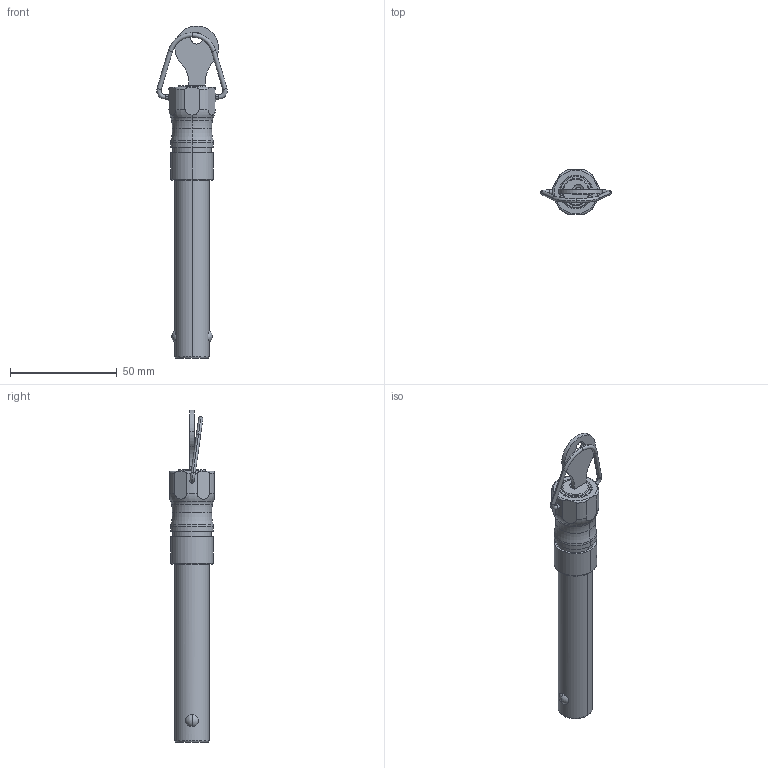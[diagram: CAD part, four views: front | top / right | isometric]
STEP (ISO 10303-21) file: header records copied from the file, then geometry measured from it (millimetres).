
FILE_DESCRIPTION (( 'STEP AP203' ), '1' );
FILE_NAME ('BLPLR16070.step', '2025-08-04T04:54:22', ( '' ), ( '' ), 'SwSTEP 2.0', 'SolidWorks 2023', '' );
FILE_SCHEMA (( 'CONFIG_CONTROL_DESIGN' ));
Length unit declared in the file: millimetre
Products named in the file (1): BLPLR16070
Bounding box: 32.99 x 21 x 155.3 mm (x, y, z)
Volume: 31128.6 mm3; surface area: 9397.3 mm2
Topology: 1 solids, 1 shells, 103 faces, 249 edges, 158 vertices
Faces by surface type: cylinder 40, plane 28, torus 22, cone 8, sphere 5
Entity records: 4022 total; most frequent: CARTESIAN_POINT 1443, DIRECTION 571, ORIENTED_EDGE 498, EDGE_CURVE 249, AXIS2_PLACEMENT_3D 242, VERTEX_POINT 158, CIRCLE 138, EDGE_LOOP 119
